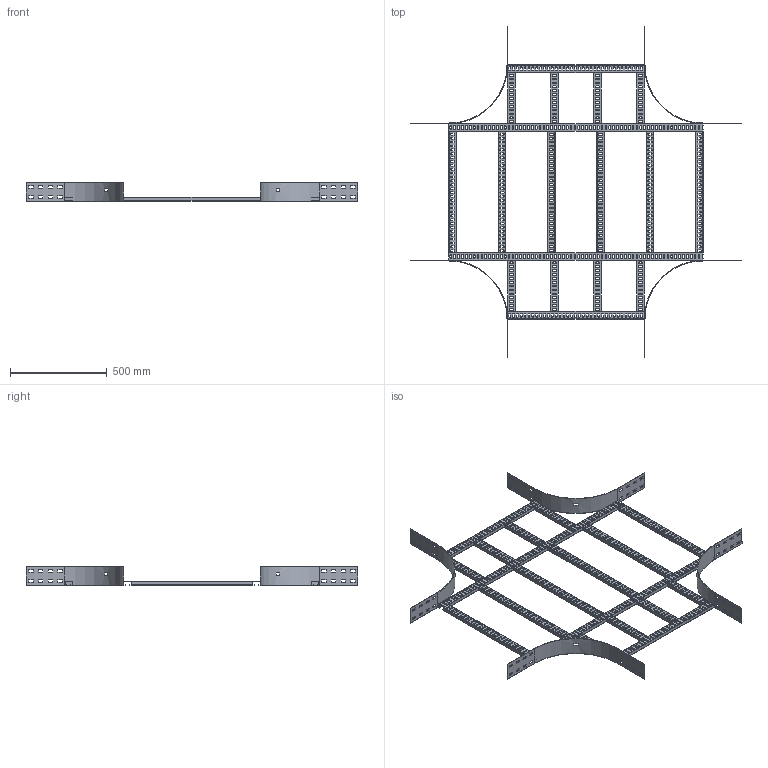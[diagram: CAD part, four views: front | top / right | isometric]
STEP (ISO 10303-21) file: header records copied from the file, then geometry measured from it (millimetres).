
FILE_DESCRIPTION(/* description */ ('','CAx-IF Rec.Pracs.---Representation and Presentation of Product Manufacturing Information (PMI)---4.0---2014-10-13'),/* implementation_level */ '2;1');
FILE_NAME(/* name */ 'Eurostrut_ECO100-700-300_Crossover for Cable Ladder ECL.step',/* time_stamp */ '2026-09-03T13:28:21+02:00',/* author */ (''),/* organization */ (''),/* preprocessor_version */ 'ST-DEVELOPER v20.1',/* originating_system */ 'Autodesk Revit 2027 27.2.0.39',/* authorisation */ '');
FILE_SCHEMA (('AP242_MANAGED_MODEL_BASED_3D_ENGINEERING_MIM_LF { 1 0 10303 442 2 1 4 }'));
Products named in the file (10): TopLevelAssembly; Sweep; Sweep_1; Sweep_2; Sweep_3; Eurostrut_Cable Ladder_Rung_With slots; Eurostrut_Cable Ladder_Rung_With slots_1; Eurostrut_Cable Ladder_Rung Array Straight_Slotted; Eurostrut_Cable Ladder_Rung Array Straight_Slotted_1; Eurostrut_Cable Ladder_Accessory End_54-94-142
Assembly tree (19 placements, depth 2):
  TopLevelAssembly
    Sweep
    Sweep_1
    Eurostrut_Cable Ladder_Rung_With slots  x2
    Eurostrut_Cable Ladder_Rung_With slots_1  x2
    Sweep_2
    Sweep_3
    Eurostrut_Cable Ladder_Rung Array Straight_Slotted
    Eurostrut_Cable Ladder_Rung Array Straight_Slotted_1  x2
    Eurostrut_Cable Ladder_Accessory End_54-94-142  x8
Bounding box: 1711 x 1711 x 94 mm (x, y, z)
Volume: 2148132.3 mm3; surface area: 2355805.5 mm2
Topology: 30 solids, 30 shells, 2636 faces, 7728 edges, 5152 vertices
Faces by surface type: plane 1572, bspline 984, cylinder 80
Entity records: 75754 total; most frequent: CARTESIAN_POINT 30713, ORIENTED_EDGE 9696, DIRECTION 8334, EDGE_CURVE 4848, LINE 3364, VECTOR 3364, VERTEX_POINT 3232, AXIS2_PLACEMENT_3D 2485
